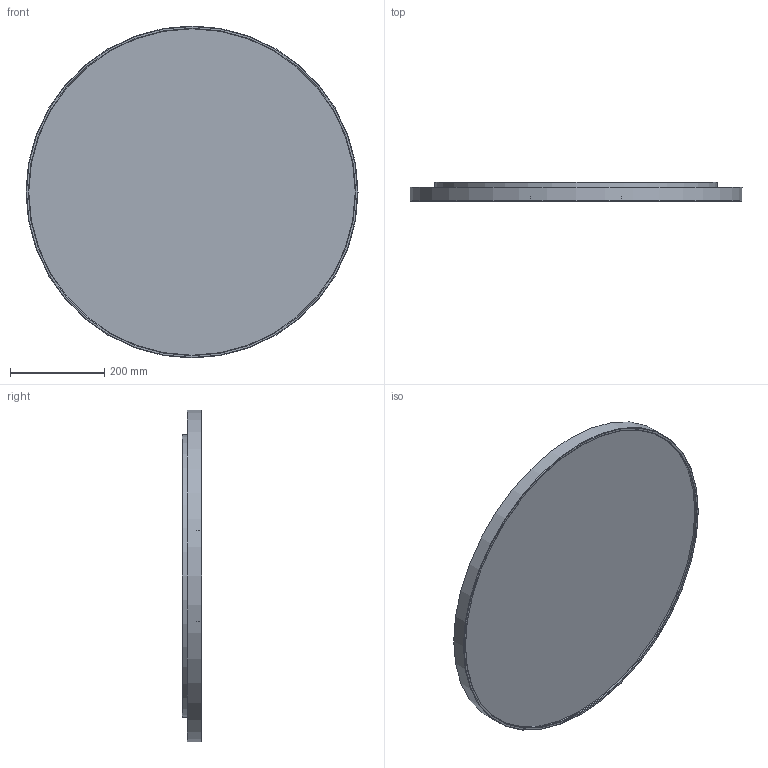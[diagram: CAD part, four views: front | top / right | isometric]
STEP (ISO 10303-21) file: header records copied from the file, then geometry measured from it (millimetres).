
FILE_DESCRIPTION(/* description */ ('Unknown'),/* implementation_level */ '2;1');
FILE_NAME(/* name */ 'Soft AMB',/* time_stamp */ '2026-04-08T14:24:54+02:00',/* author */ ('Mariusz Kirko'),/* organization */ ('Kraft'),/* preprocessor_version */ 'ST-DEVELOPER v19.4',/* originating_system */ 'Solid Edge',/* authorisation */ 'Unknown');
FILE_SCHEMA (('AUTOMOTIVE_DESIGN {1 0 10303 214 3 1 1}'));
Length unit declared in the file: millimetre
Products named in the file (5): Z這瞠nie plus zawieszka; Ramka; Lustro; Ramka AMB; 350x30
Assembly tree (4 placements, depth 2):
  Z這瞠nie plus zawieszka
    Ramka
    Lustro
    Ramka AMB
    350x30
Bounding box: 706 x 40.5 x 706 mm (x, y, z)
Volume: 1915531.7 mm3; surface area: 1123396.1 mm2
Topology: 4 solids, 4 shells, 89 faces, 240 edges, 160 vertices
Faces by surface type: plane 49, cylinder 38, torus 2
Full cylindrical faces by diameter (mm): 596 x1, 600 x1, 694 x1, 700 x2, 706 x1
Entity records: 2953 total; most frequent: DIRECTION 496, CARTESIAN_POINT 482, ORIENTED_EDGE 460, EDGE_CURVE 230, AXIS2_PLACEMENT_3D 172, VERTEX_POINT 158, LINE 152, VECTOR 152
